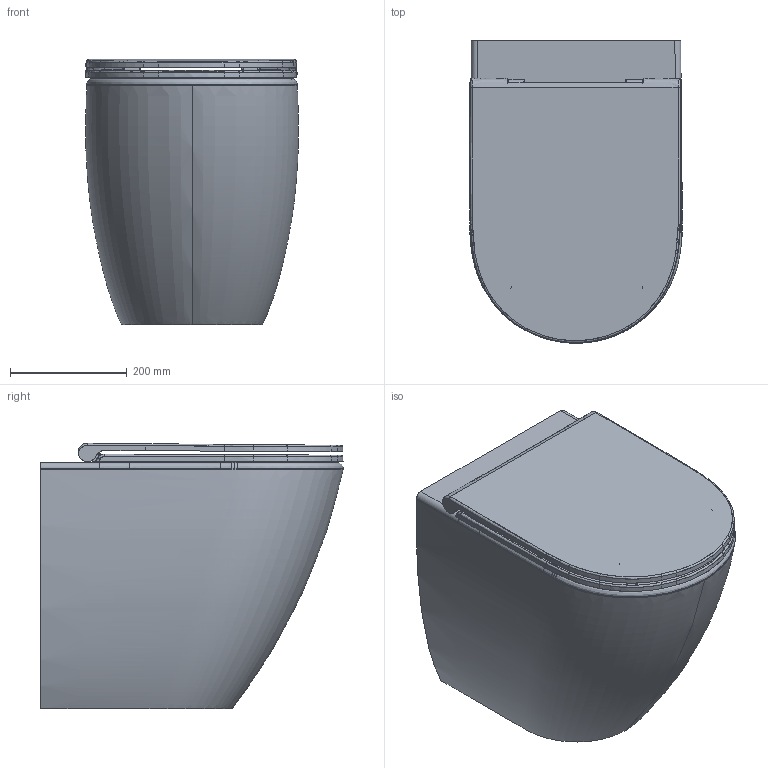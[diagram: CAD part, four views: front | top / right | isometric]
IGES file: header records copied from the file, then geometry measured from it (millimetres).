
Global section: file name: /Volumes/Documenti/lavoro/DATI_archivio 1/SITO ALTHEA CERAMICA/2022/SCHEDE PRODOTTO/COVER RIMLESS PLUSTON/WC_COVER RIMLESS_pluston.igs; preprocessor: Trout Lake IGES 012 Jun 21 2016; date: 220428.080102; units: millimetre
Bounding box: 364.35 x 517.43 x 454.01 mm (x, y, z)
Surface area: 1342075.2 mm2 (no closed solid volume)
Topology: 0 solids, 0 shells, 463 faces, 4307 edges, 4277 vertices
Faces by surface type: bspline 463
